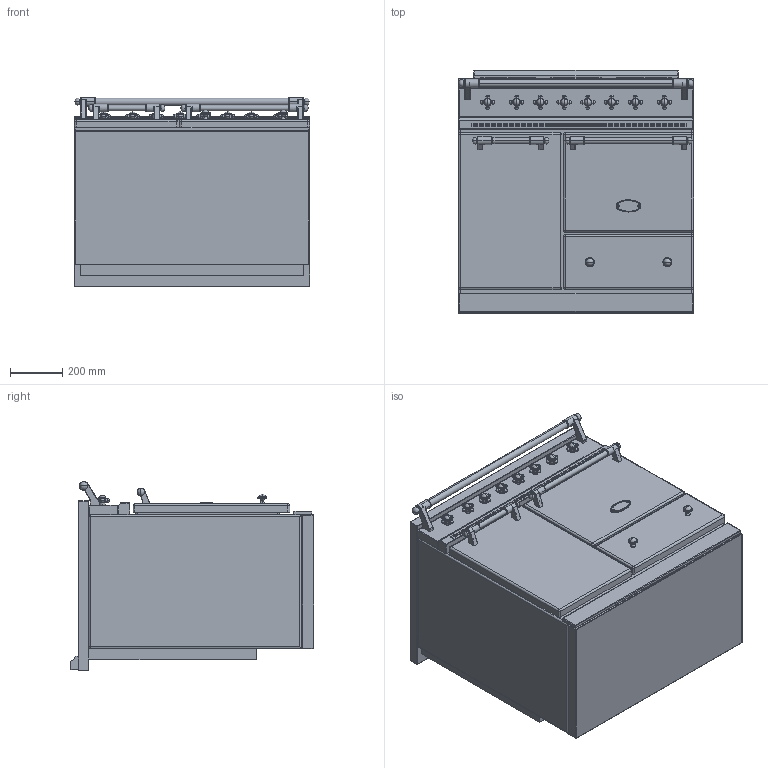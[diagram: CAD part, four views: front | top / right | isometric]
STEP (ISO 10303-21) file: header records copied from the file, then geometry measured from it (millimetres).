
FILE_DESCRIPTION((''),'2;1');
FILE_NAME('LVI962G_ASM','2014-07-07T',('p.perraut'),(''),'PRO/ENGINEER BY PARAMETRIC TECHNOLOGY CORPORATION, 2014090','PRO/ENGINEER BY PARAMETRIC TECHNOLOGY CORPORATION, 2014090','');
FILE_SCHEMA(('AP203_CONFIGURATION_CONTROLLED_3D_DESIGN_OF_MECHANICAL_PARTS_AND_ASSEMBLIES_MIM_LF { 1 0 10303 403 2 1 2 }'));
Products named in the file (17): BASE_EXPORT_BUSSY; 65650003; 65650004; 6531940; 6531941; 6538399; 1931942; 6518450; 6531942_ASM; 6531943; 65049009; 65650001; BASE_EXPORT_BUSSY_ASM; TABLE_900_INDUCTION; VERRE_65213057; TABLE_900_INDUCTION_ASM; LVI962G_ASM
Assembly tree (26 placements, depth 4):
  LVI962G_ASM
    BASE_EXPORT_BUSSY_ASM
      BASE_EXPORT_BUSSY
      65650003
      65650004
      6531940  x2
      6531941  x2
      6531942_ASM  x8
        6538399
        1931942
        6518450
      6531943  x2
      65049009
      65650001
    TABLE_900_INDUCTION_ASM
      TABLE_900_INDUCTION
      VERRE_65213057
Bounding box: 900 x 930.5 x 724 mm (x, y, z)
Volume: 472185408.3 mm3; surface area: 7875672.1 mm2
Topology: 36 solids, 44 shells, 3851 faces, 10832 edges, 7382 vertices
Faces by surface type: plane 2176, cylinder 877, extrusion 316, sphere 180, torus 170, cone 66, bspline 54, revolution 12
Entity records: 73006 total; most frequent: CARTESIAN_POINT 14285, DIRECTION 8988, ORIENTED_EDGE 8106, EDGE_CURVE 4063, VECTOR 3093, PRESENTATION_STYLE_ASSIGNMENT 3021, STYLED_ITEM 2978, LINE 2973
